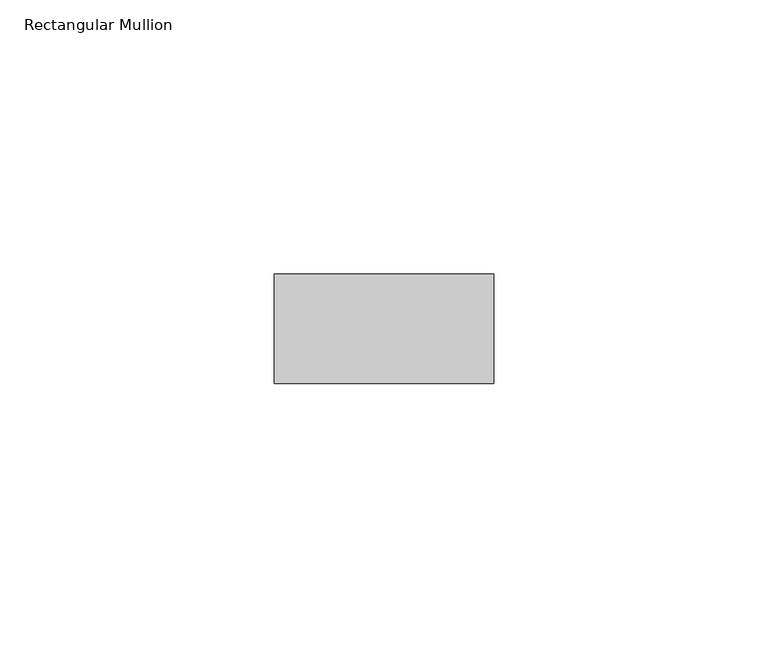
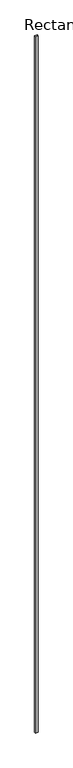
"""IFC4 building model written with IfcOpenShell, lengths in millimetres: member geometry, Rectangular Mullion : RIPA 4x2 cm."""

import ifcopenshell
import ifcopenshell.guid

model = None  # the IFC model being written
_history = None  # IfcOwnerHistory: only IFC2X3 demands one
_inside = {}  # id of a spatial element -> (the spatial element, [elements in it])
_under = {}  # id of a project, library or spatial element -> (it, [spatial elements below it])
_declared = {}  # id of a project -> (the project, [libraries it declares])
_typed = {}  # id of a type object -> (the type object, [elements of that type])
_made_of = {}  # id of a material, layer set ... -> (it, [elements and type objects made of it])


def new_model(schema):
    """Start an empty IFC model of exactly this schema.

    Asked for "IFC4X3", IfcOpenShell would pick the latest addendum, in which some entities
    have other attributes; the version numbers below select the first issue.
    IFC2X3 requires an IfcOwnerHistory on every rooted entity: one is made here for all.
    """
    global model, _history
    if schema == "IFC4X3":
        model = ifcopenshell.file(schema_version=(4, 3, 0, 0))
    else:
        model = ifcopenshell.file(schema=schema)
    _inside.clear()
    _under.clear()
    _declared.clear()
    _typed.clear()
    _made_of.clear()
    _history = None
    if model.schema == "IFC2X3":
        org = make("IfcOrganization", Name="unknown")
        user = make(
            "IfcPersonAndOrganization",
            ThePerson=make("IfcPerson", FamilyName="unknown"),
            TheOrganization=org,
        )
        app = make(
            "IfcApplication",
            ApplicationDeveloper=org,
            Version="unknown",
            ApplicationFullName="unknown",
            ApplicationIdentifier="unknown",
        )
        _history = make(
            "IfcOwnerHistory",
            OwningUser=user,
            OwningApplication=app,
            ChangeAction="ADDED",
            CreationDate=0,
        )
    return model


def make(cls, **values):
    """One entity of the class cls with the attributes given. An attribute that is None is left unset."""
    return model.create_entity(
        cls, **{name: value for name, value in values.items() if value is not None}
    )


def rooted(cls, **values):
    """An entity with a GlobalId (a new one), such as an element, a storey or a relation."""
    return make(cls, GlobalId=ifcopenshell.guid.new(), OwnerHistory=_history, **values)


def si_unit(unit_type, name, prefix=None):
    """IfcSIUnit, for example si_unit("LENGTHUNIT", "METRE", prefix="MILLI")."""
    return make("IfcSIUnit", UnitType=unit_type, Prefix=prefix, Name=name)


def assignment(units):
    """IfcUnitAssignment: the units of a project."""
    return None if units is None else make("IfcUnitAssignment", Units=units)


def point(xyz):
    """IfcCartesianPoint."""
    return None if xyz is None else make("IfcCartesianPoint", Coordinates=xyz)


def direction(xyz):
    """IfcDirection."""
    return None if xyz is None else make("IfcDirection", DirectionRatios=xyz)


def frame(location, z_axis=None, x_axis=None):
    """IfcAxis2Placement3D, a coordinate frame: its origin and axes. An axis left out is left unset."""
    return make(
        "IfcAxis2Placement3D",
        Location=point(location),
        Axis=direction(z_axis),
        RefDirection=direction(x_axis),
    )


def origin():
    """The frame at (0, 0, 0) with its axes left unset."""
    return frame((0.0, 0.0, 0.0))


def place(relative_to, where):
    """IfcLocalPlacement: puts the frame where relative to a parent placement (None: the world)."""
    return make(
        "IfcLocalPlacement", PlacementRelTo=relative_to, RelativePlacement=where
    )


def context(
    kind, dimensions, precision=None, world=None, true_north=None, identifier=None
):
    """IfcGeometricRepresentationContext, for example the 3D "Model" context."""
    return make(
        "IfcGeometricRepresentationContext",
        ContextIdentifier=identifier,
        ContextType=kind,
        CoordinateSpaceDimension=dimensions,
        Precision=precision,
        WorldCoordinateSystem=world,
        TrueNorth=true_north,
    )


def project(units=None, contexts=None):
    """IfcProject with its units and contexts."""
    return rooted(
        "IfcProject",
        Name="project",
        RepresentationContexts=contexts,
        UnitsInContext=assignment(units),
    )


def spatial(cls, under=None, at=None, **own):
    """A site, building, storey or space (cls), placed at a placement, below another one or the project."""
    s = rooted(cls, ObjectPlacement=at, **own)
    if under is not None:
        _under.setdefault(under.id(), (under, []))[1].append(s)
    return s


def polyline(points):
    """IfcPolyline through the points."""
    return make("IfcPolyline", Points=[point(p) for p in points])


def outline(outer, holes=None, kind="AREA"):
    """IfcArbitraryClosedProfileDef: a profile drawn as a closed curve; with holes, ...WithVoids."""
    if holes is None:
        return make("IfcArbitraryClosedProfileDef", ProfileType=kind, OuterCurve=outer)
    return make(
        "IfcArbitraryProfileDefWithVoids",
        ProfileType=kind,
        OuterCurve=outer,
        InnerCurves=holes,
    )


def extrude(swept, where, along, depth):
    """IfcExtrudedAreaSolid: the profile swept, set in the frame where, extruded along a direction by depth."""
    return make(
        "IfcExtrudedAreaSolid",
        SweptArea=swept,
        Position=where,
        ExtrudedDirection=direction(along),
        Depth=depth,
    )


def shape(context_of_items, identifier, shape_type, items):
    """IfcShapeRepresentation: the items that make up one representation, for example the "Body"."""
    return make(
        "IfcShapeRepresentation",
        ContextOfItems=context_of_items,
        RepresentationIdentifier=identifier,
        RepresentationType=shape_type,
        Items=items,
    )


def source(mapping_origin, context_of_items, identifier, shape_type, items):
    """IfcRepresentationMap: a shape defined once, which mapped items show again and again."""
    return make(
        "IfcRepresentationMap",
        MappingOrigin=mapping_origin,
        MappedRepresentation=shape(context_of_items, identifier, shape_type, items),
    )


def transform(
    local_origin,
    x_axis=None,
    y_axis=None,
    z_axis=None,
    scale=None,
    scale2=None,
    scale3=None,
    uniform=True,
):
    """IfcCartesianTransformationOperator3D, or its non-uniform kind. x_axis, y_axis, z_axis: its Axis1, 2, 3."""
    if uniform:
        return make(
            "IfcCartesianTransformationOperator3D",
            Axis1=direction(x_axis),
            Axis2=direction(y_axis),
            LocalOrigin=point(local_origin),
            Scale=scale,
            Axis3=direction(z_axis),
        )
    return make(
        "IfcCartesianTransformationOperator3DnonUniform",
        Axis1=direction(x_axis),
        Axis2=direction(y_axis),
        LocalOrigin=point(local_origin),
        Scale=scale,
        Axis3=direction(z_axis),
        Scale2=scale2,
        Scale3=scale3,
    )


def mapped(mapping_source, mapping_target):
    """IfcMappedItem: shows the shape of a source again, moved by a transform."""
    return make(
        "IfcMappedItem", MappingSource=mapping_source, MappingTarget=mapping_target
    )


def made_of(thing, what):
    """Note that an element or type object is made of a material, layer set ...; save() writes the relation."""
    if what is not None:
        _made_of.setdefault(what.id(), (what, []))[1].append(thing)
    return thing


def element(
    cls,
    number,
    at=None,
    inside=None,
    cuts=None,
    type_object=None,
    material=None,
    context=None,
    identifier="Body",
    shape_type=None,
    held_by="IfcProductDefinitionShape",
    body=None,
    shapes=None,
    **own,
):
    """One element of the class cls, such as IfcWall. Its Tag is "e" and its number.

    at: its placement. inside: the storey or other place that contains it. cuts: it is an
    opening in that element (IfcRelVoidsElement). A single representation is given by context,
    identifier, shape_type and body (its items); several are given by shapes. held_by: the class
    of the entity that holds the representations. save() writes the other relations.
    """
    e = rooted(cls, Tag="e%d" % number, ObjectPlacement=at, **own)
    if body is not None:
        shapes = [shape(context, identifier, shape_type, body)]
    if shapes is not None:
        e.Representation = make(held_by, Representations=shapes)
    if inside is not None:
        _inside.setdefault(inside.id(), (inside, []))[1].append(e)
    if cuts is not None:
        rooted(
            "IfcRelVoidsElement", RelatingBuildingElement=cuts, RelatedOpeningElement=e
        )
    if type_object is not None:
        _typed.setdefault(type_object.id(), (type_object, []))[1].append(e)
    return made_of(e, material)


def aggregate(whole, parts):
    """IfcRelAggregates: a whole, such as a stair, and the parts it consists of."""
    return rooted("IfcRelAggregates", RelatingObject=whole, RelatedObjects=parts)


def save(model, path):
    """Write the relations noted so far, then the file.

    IfcRelAggregates (storeys below a building ...), IfcRelContainedInSpatialStructure (elements
    in a storey), IfcRelDefinesByType, IfcRelAssociatesMaterial and IfcRelDeclares: one each for
    every whole, place, type object, material and project.
    """
    for whole, parts in _under.values():
        aggregate(whole, parts)
    for where, things in _inside.values():
        rooted(
            "IfcRelContainedInSpatialStructure",
            RelatedElements=things,
            RelatingStructure=where,
        )
    for kind, things in _typed.values():
        rooted("IfcRelDefinesByType", RelatedObjects=things, RelatingType=kind)
    for what, things in _made_of.values():
        rooted("IfcRelAssociatesMaterial", RelatedObjects=things, RelatingMaterial=what)
    for by, libraries in _declared.values():
        rooted("IfcRelDeclares", RelatingContext=by, RelatedDefinitions=libraries)
    model.write(path)


def rectangular_mullion_44cb0782(model_context):
    return source(origin(), model_context, "Body", "SweptSolid", [
        extrude(outline(polyline([(0.0, 0.0), (0.0, -20.0), (-40.0, -20.0), (-40.0, 0.0), (0.0, 0.0)])), frame((0.0, 0.0, -11350.0), z_axis=(0.0, 0.0, 1.0), x_axis=(1.0, 0.0, 0.0)), (0.0, 0.0, 1.0), 11350.0),
    ])


if __name__ == "__main__":
    model = new_model("IFC4")
    model_context = context("Model", 3, world=origin())
    ifc_project = project(units=[si_unit("LENGTHUNIT", "METRE", prefix="MILLI")], contexts=[model_context])
    site = spatial("IfcSite", under=ifc_project)
    building = spatial("IfcBuilding", under=site)
    placement = place(None, origin())
    rectangular_mullion_shape = rectangular_mullion_44cb0782(model_context)
    element("IfcMember", 1, ObjectType="Rectangular Mullion : RIPA 4x2 cm", at=placement, inside=building, context=model_context, shape_type="MappedRepresentation", body=[
        mapped(rectangular_mullion_shape, transform((0.0, 0.0, 0.0), x_axis=(1.0, 0.0, 0.0), y_axis=(0.0, 1.0, 0.0), z_axis=(0.0, 0.0, 1.0))),
    ])
    save(model, "model.ifc")
